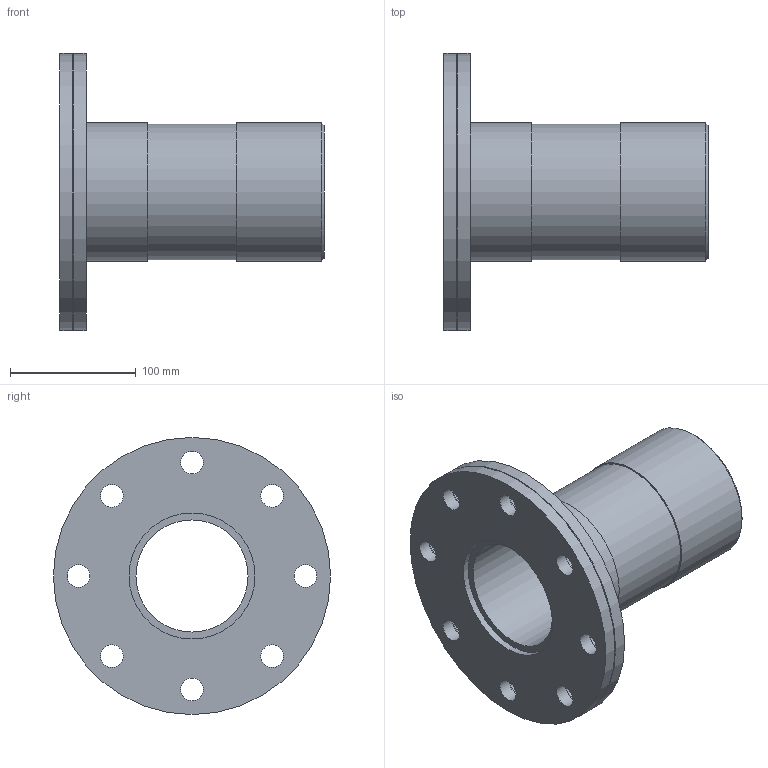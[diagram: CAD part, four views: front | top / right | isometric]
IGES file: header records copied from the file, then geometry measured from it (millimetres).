
Global section: file name: 0723061100400A.ipt; native system: Autodesk Inventor 2015; preprocessor: unknown; author: Кирилл,,11,0; organization: 20170224.180708; date: 20170608.042653; units: millimetre
Bounding box: 210 x 220 x 220 mm (x, y, z)
Volume: 1140520.2 mm3; surface area: 216191.2 mm2
Topology: 1 solids, 1 shells, 50 faces, 147 edges, 104 vertices
Faces by surface type: revolution 35, plane 7, cylinder 5, cone 3
Full cylindrical faces by diameter (mm): 107.8 x1, 110 x2, 220 x2
